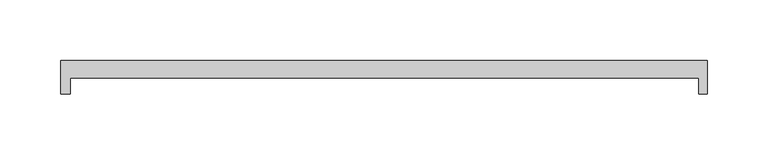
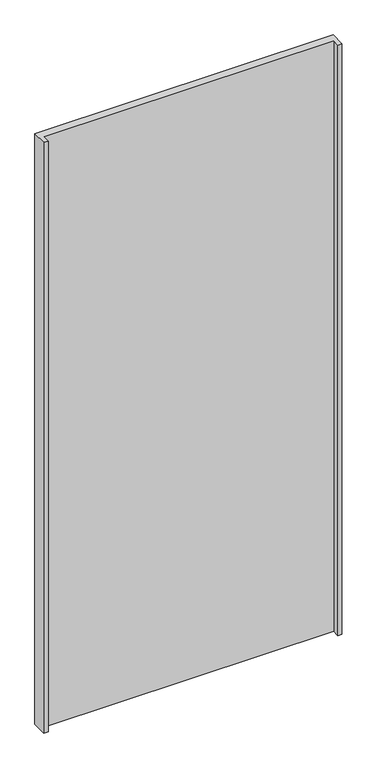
"""IFC4 building model written with IfcOpenShell, lengths in millimetres: plate geometry, Walls_Curtain-Walls_Danpal_AIRPT : Walls_Curtain-Walls_Danpal_AIRPT."""

from ifc_helpers import new_model, si_unit, origin, origin_with_axes, place, context, project, spatial, polyline, outline, extrude, source, transform, mapped, element, save


def plate_b5be5234(model_context):
    return source(origin(), model_context, "Body", "SweptSolid", [
        extrude(outline(polyline([(-257.3806431, -14.1228126), (-257.3806431, -27.3924397), (-265.1, -27.3924397), (-265.1, 0.0), (265.0762525, 0.0), (265.0762525, -27.3924397), (258.0762525, -27.3924397), (258.0762525, -14.1228126), (-257.3806431, -14.1228126)])), origin_with_axes(), (0.0, 0.0, 1.0), 1110.4985745),
    ])


if __name__ == "__main__":
    model = new_model("IFC4")
    model_context = context("Model", 3, world=origin())
    ifc_project = project(units=[si_unit("LENGTHUNIT", "METRE", prefix="MILLI")], contexts=[model_context])
    site = spatial("IfcSite", under=ifc_project)
    building = spatial("IfcBuilding", under=site)
    placement = place(None, origin())
    plate_shape = plate_b5be5234(model_context)
    element("IfcPlate", 1, ObjectType="Walls_Curtain-Walls_Danpal_AIRPT : Walls_Curtain-Walls_Danpal_AIRPT", at=placement, inside=building, context=model_context, shape_type="MappedRepresentation", body=[
        mapped(plate_shape, transform((0.0, 0.0, 0.0), x_axis=(1.0, 0.0, 0.0), y_axis=(0.0, 1.0, 0.0), z_axis=(0.0, 0.0, 1.0))),
    ])
    save(model, "model.ifc")
